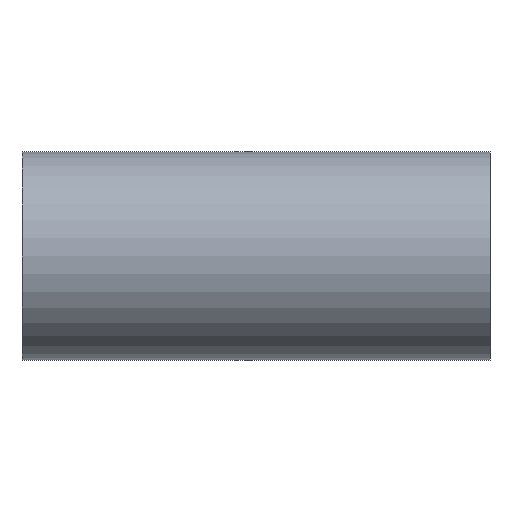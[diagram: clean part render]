
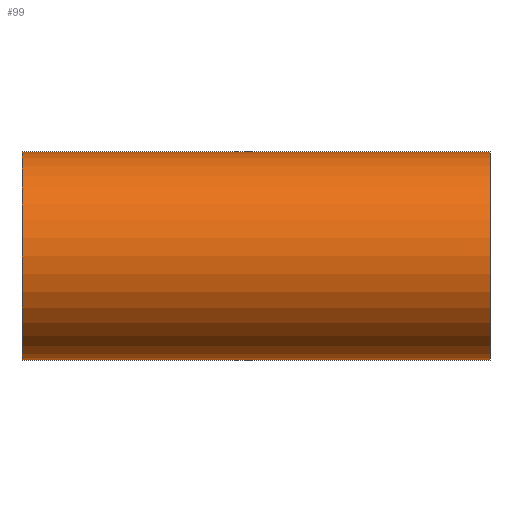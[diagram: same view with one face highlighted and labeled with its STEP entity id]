
A CAD part, front view. The second image highlights one B-rep face of the part: STEP entity #99.
In plain terms, the highlighted cylindrical face has radius 38.1 mm (diameter 76.2 mm), a partial arc.
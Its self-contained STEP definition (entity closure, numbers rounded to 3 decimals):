
#11 = ORIENTED_EDGE ( 'NONE', *, *, #66, .T. ) ;
#31 = AXIS2_PLACEMENT_3D ( 'NONE', #212, #161, #348 ) ;
#49 = CARTESIAN_POINT ( 'NONE',  ( -85.7, 0., 38.1 ) ) ;
#62 = VERTEX_POINT ( 'NONE', #163 ) ;
#66 = EDGE_CURVE ( 'NONE', #398, #204, #429, .T. ) ;
#78 = DIRECTION ( 'NONE',  ( 0., 0., -1. ) ) ;
#99 = ADVANCED_FACE ( 'NONE', ( #582 ), #583, .T. ) ;
#109 = ORIENTED_EDGE ( 'NONE', *, *, #391, .T. ) ;
#138 = CARTESIAN_POINT ( 'NONE',  ( -85.7, 0., -38.1 ) ) ;
#149 = CARTESIAN_POINT ( 'NONE',  ( -85.7, 0., 38.1 ) ) ;
#161 = DIRECTION ( 'NONE',  ( 1., 0., 0. ) ) ;
#163 = CARTESIAN_POINT ( 'NONE',  ( 85.7, 0., 38.1 ) ) ;
#180 = DIRECTION ( 'NONE',  ( 1., 0., 0. ) ) ;
#204 = VERTEX_POINT ( 'NONE', #138 ) ;
#212 = CARTESIAN_POINT ( 'NONE',  ( -85.7, 0., 0. ) ) ;
#257 = DIRECTION ( 'NONE',  ( 1., 0., 0. ) ) ;
#263 = EDGE_LOOP ( 'NONE', ( #359, #11, #430, #109 ) ) ;
#267 = DIRECTION ( 'NONE',  ( -1., 0., 0. ) ) ;
#283 = AXIS2_PLACEMENT_3D ( 'NONE', #448, #267, #78 ) ;
#327 = DIRECTION ( 'NONE',  ( 1., 0., 0. ) ) ;
#348 = DIRECTION ( 'NONE',  ( 0., 0., -1. ) ) ;
#359 = ORIENTED_EDGE ( 'NONE', *, *, #520, .F. ) ;
#382 = CIRCLE ( 'NONE', #283, 38.1 ) ;
#391 = EDGE_CURVE ( 'NONE', #442, #62, #382, .T. ) ;
#398 = VERTEX_POINT ( 'NONE', #149 ) ;
#421 = LINE ( 'NONE', #49, #527 ) ;
#429 = CIRCLE ( 'NONE', #540, 38.1 ) ;
#430 = ORIENTED_EDGE ( 'NONE', *, *, #479, .T. ) ;
#442 = VERTEX_POINT ( 'NONE', #597 ) ;
#448 = CARTESIAN_POINT ( 'NONE',  ( 85.7, 0., 0. ) ) ;
#479 = EDGE_CURVE ( 'NONE', #204, #442, #554, .T. ) ;
#489 = VECTOR ( 'NONE', #180, 1000. ) ;
#520 = EDGE_CURVE ( 'NONE', #398, #62, #421, .T. ) ;
#527 = VECTOR ( 'NONE', #327, 1000. ) ;
#536 = DIRECTION ( 'NONE',  ( 0., 0., -1. ) ) ;
#540 = AXIS2_PLACEMENT_3D ( 'NONE', #584, #257, #536 ) ;
#552 = CARTESIAN_POINT ( 'NONE',  ( -85.7, 0., -38.1 ) ) ;
#554 = LINE ( 'NONE', #552, #489 ) ;
#582 = FACE_OUTER_BOUND ( 'NONE', #263, .T. ) ;
#583 = CYLINDRICAL_SURFACE ( 'NONE', #31, 38.1 ) ;
#584 = CARTESIAN_POINT ( 'NONE',  ( -85.7, 0., 0. ) ) ;
#597 = CARTESIAN_POINT ( 'NONE',  ( 85.7, 0., -38.1 ) ) ;
